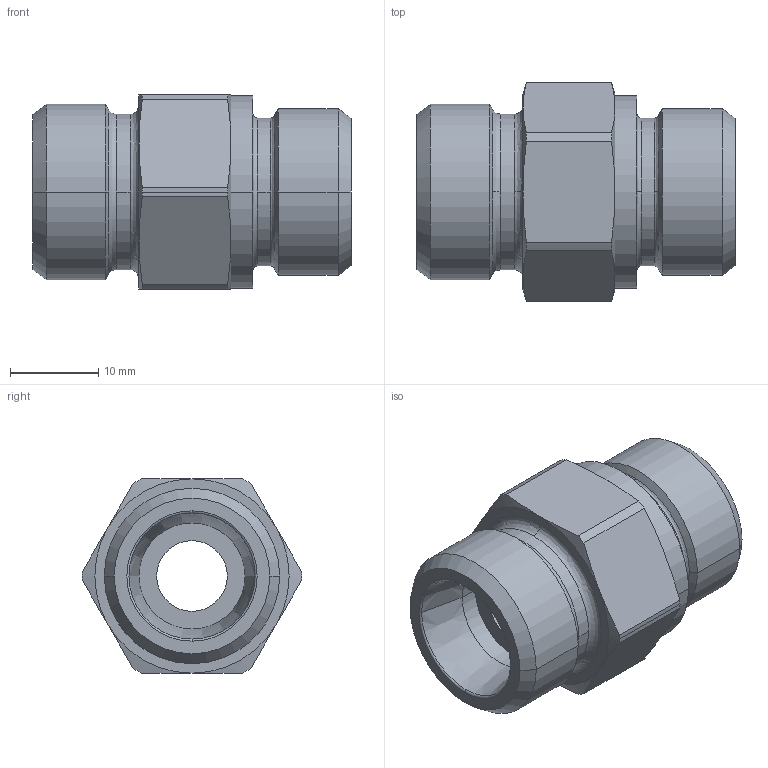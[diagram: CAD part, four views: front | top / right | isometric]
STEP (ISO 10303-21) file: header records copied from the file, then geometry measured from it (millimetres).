
FILE_DESCRIPTION((''),'2;1');
FILE_NAME('100935.stp','2007-10-30T15:34:33',(''),(''),'AutoCAD STEP 2000i','AutoCAD 2000i',', , ');
FILE_SCHEMA(('CONFIG_CONTROL_DESIGN'));
Length unit declared in the file: millimetre
Products named in the file (2): 100935.0; CHIAVE SMUSSATA#0
Assembly tree (1 placements, depth 2):
  100935.0
    CHIAVE SMUSSATA#0
Bounding box: 36 x 24.8 x 22 mm (x, y, z)
Volume: 9200.6 mm3; surface area: 4057.2 mm2
Topology: 1 solids, 1 shells, 68 faces, 165 edges, 103 vertices
Faces by surface type: cone 24, cylinder 22, plane 12, bspline 8, torus 2
Entity records: 2431 total; most frequent: CARTESIAN_POINT 738, DIRECTION 366, ORIENTED_EDGE 330, EDGE_CURVE 165, AXIS2_PLACEMENT_3D 163, VERTEX_POINT 103, CIRCLE 101, EDGE_LOOP 74
